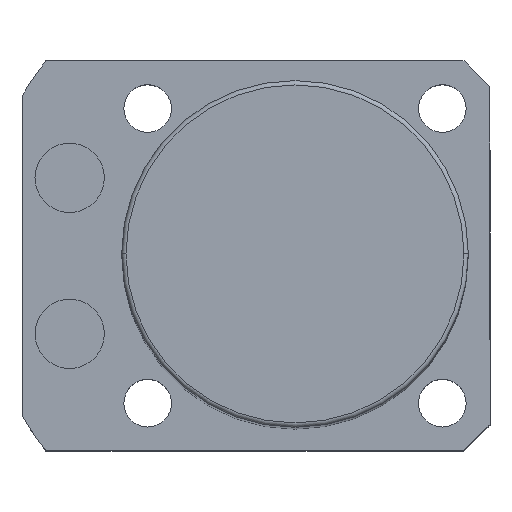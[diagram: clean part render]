
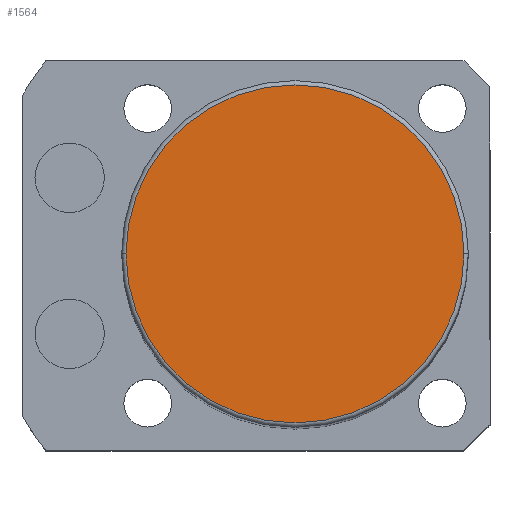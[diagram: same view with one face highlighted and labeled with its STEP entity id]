
A CAD part, top view. The second image highlights one B-rep face of the part: STEP entity #1564.
In plain terms, the highlighted planar face has unit normal (0, 0, 1).
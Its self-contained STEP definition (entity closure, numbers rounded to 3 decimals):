
#123 = ORIENTED_EDGE ( 'NONE', *, *, #1993, .T. ) ;
#541 = VERTEX_POINT ( 'NONE', #1752 ) ;
#588 = CARTESIAN_POINT ( 'NONE',  ( 0., 0., 138.5 ) ) ;
#596 = CARTESIAN_POINT ( 'NONE',  ( 0., 0., 138.5 ) ) ;
#597 = CIRCLE ( 'NONE', #1285, 19.5 ) ;
#607 = PLANE ( 'NONE',  #1621 ) ;
#811 = DIRECTION ( 'NONE',  ( 1., 0., 0. ) ) ;
#894 = DIRECTION ( 'NONE',  ( 1., 0., 0. ) ) ;
#968 = FACE_OUTER_BOUND ( 'NONE', #1335, .T. ) ;
#977 = DIRECTION ( 'NONE',  ( 0., 0., 1. ) ) ;
#1029 = CIRCLE ( 'NONE', #2349, 19.5 ) ;
#1108 = DIRECTION ( 'NONE',  ( 0., 0., 1. ) ) ;
#1110 = EDGE_CURVE ( 'NONE', #541, #1856, #597, .T. ) ;
#1285 = AXIS2_PLACEMENT_3D ( 'NONE', #1672, #1108, #894 ) ;
#1335 = EDGE_LOOP ( 'NONE', ( #1502, #123 ) ) ;
#1502 = ORIENTED_EDGE ( 'NONE', *, *, #1110, .T. ) ;
#1564 = ADVANCED_FACE ( 'NONE', ( #968 ), #607, .T. ) ;
#1621 = AXIS2_PLACEMENT_3D ( 'NONE', #588, #977, #811 ) ;
#1672 = CARTESIAN_POINT ( 'NONE',  ( 0., 0., 138.5 ) ) ;
#1752 = CARTESIAN_POINT ( 'NONE',  ( 19.5, 0., 138.5 ) ) ;
#1856 = VERTEX_POINT ( 'NONE', #2264 ) ;
#1946 = DIRECTION ( 'NONE',  ( 1., 0., 0. ) ) ;
#1993 = EDGE_CURVE ( 'NONE', #1856, #541, #1029, .T. ) ;
#2264 = CARTESIAN_POINT ( 'NONE',  ( -19.5, 0., 138.5 ) ) ;
#2329 = DIRECTION ( 'NONE',  ( 0., 0., 1. ) ) ;
#2349 = AXIS2_PLACEMENT_3D ( 'NONE', #596, #2329, #1946 ) ;
